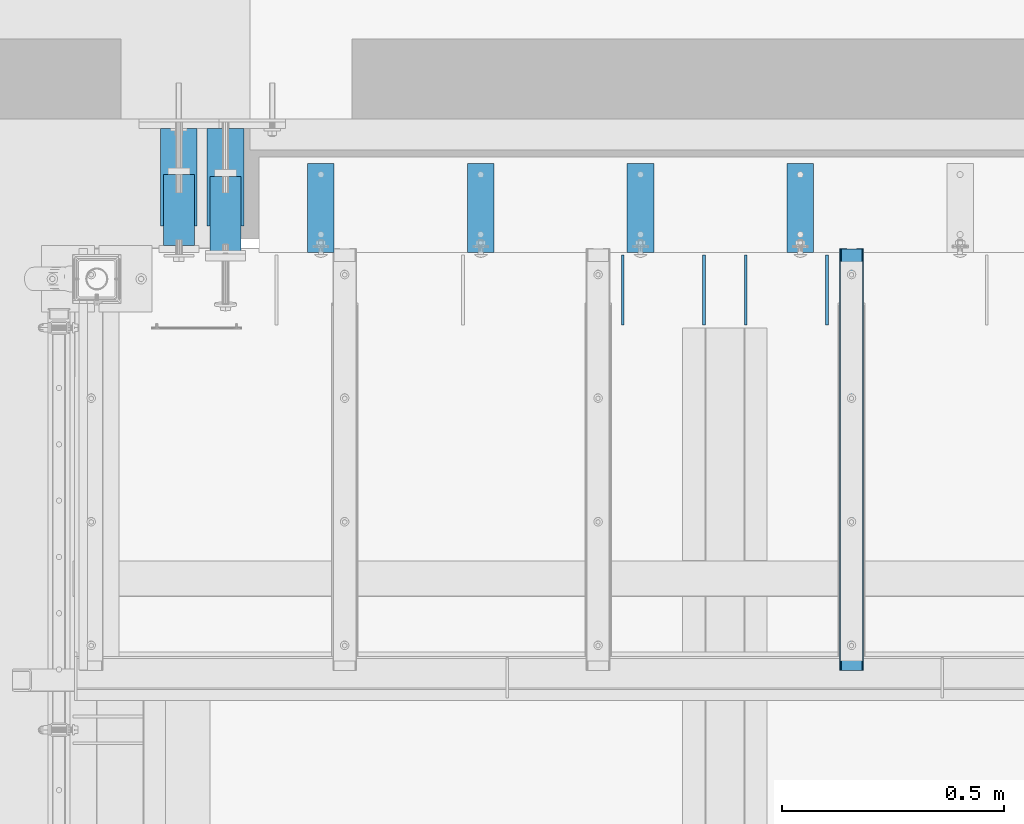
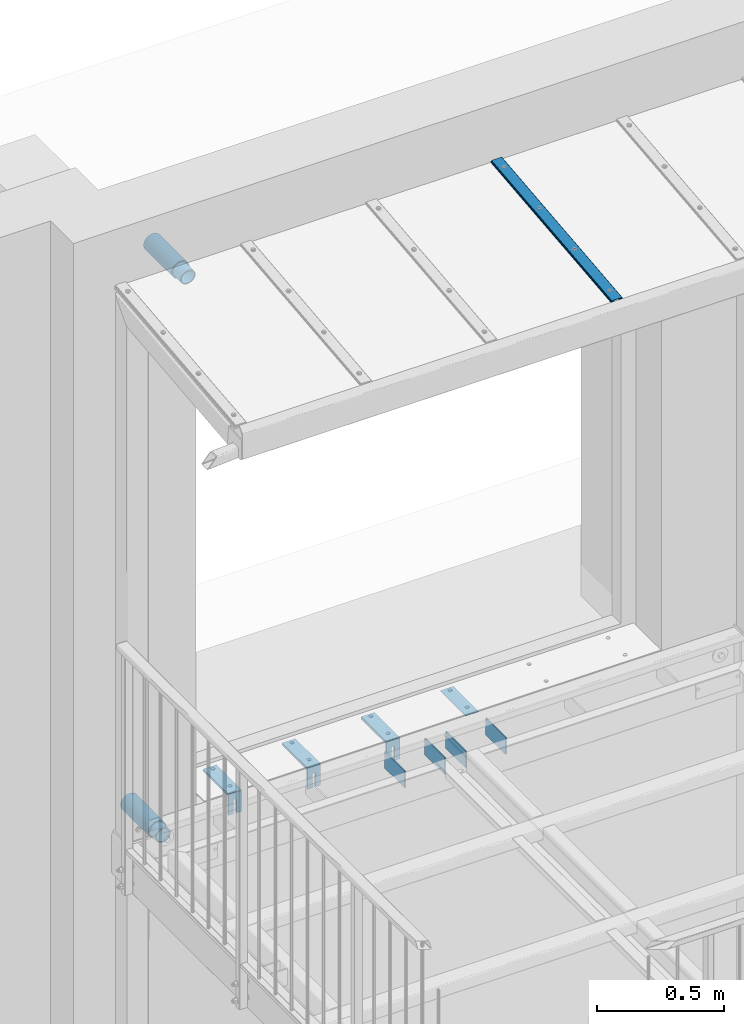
# One storey, part 19 of 116: 15 beams, 1 member, 7 openings.
"""IFC2X3 building model written with IfcOpenShell, lengths in millimetres."""

import ifcopenshell
import ifcopenshell.guid

model = None  # the IFC model being written
_history = None  # IfcOwnerHistory: only IFC2X3 demands one
_inside = {}  # id of a spatial element -> (the spatial element, [elements in it])
_under = {}  # id of a project, library or spatial element -> (it, [spatial elements below it])
_declared = {}  # id of a project -> (the project, [libraries it declares])
_typed = {}  # id of a type object -> (the type object, [elements of that type])
_made_of = {}  # id of a material, layer set ... -> (it, [elements and type objects made of it])


def new_model(schema):
    """Start an empty IFC model of exactly this schema.

    Asked for "IFC4X3", IfcOpenShell would pick the latest addendum, in which some entities
    have other attributes; the version numbers below select the first issue.
    IFC2X3 requires an IfcOwnerHistory on every rooted entity: one is made here for all.
    """
    global model, _history
    if schema == "IFC4X3":
        model = ifcopenshell.file(schema_version=(4, 3, 0, 0))
    else:
        model = ifcopenshell.file(schema=schema)
    _inside.clear()
    _under.clear()
    _declared.clear()
    _typed.clear()
    _made_of.clear()
    _history = None
    if model.schema == "IFC2X3":
        org = make("IfcOrganization", Name="unknown")
        user = make(
            "IfcPersonAndOrganization",
            ThePerson=make("IfcPerson", FamilyName="unknown"),
            TheOrganization=org,
        )
        app = make(
            "IfcApplication",
            ApplicationDeveloper=org,
            Version="unknown",
            ApplicationFullName="unknown",
            ApplicationIdentifier="unknown",
        )
        _history = make(
            "IfcOwnerHistory",
            OwningUser=user,
            OwningApplication=app,
            ChangeAction="ADDED",
            CreationDate=0,
        )
    return model


def make(cls, **values):
    """One entity of the class cls with the attributes given. An attribute that is None is left unset."""
    return model.create_entity(
        cls, **{name: value for name, value in values.items() if value is not None}
    )


def entity(cls, *values):
    """Any entity or typed value of the class cls, its attributes in the order of the schema. None: left unset."""
    e = model.create_entity(cls)
    for i, value in enumerate(values):
        if value is not None:
            e[i] = value
    return e


def rooted(cls, **values):
    """An entity with a GlobalId (a new one), such as an element, a storey or a relation."""
    return make(cls, GlobalId=ifcopenshell.guid.new(), OwnerHistory=_history, **values)


def si_unit(unit_type, name, prefix=None):
    """IfcSIUnit, for example si_unit("LENGTHUNIT", "METRE", prefix="MILLI")."""
    return make("IfcSIUnit", UnitType=unit_type, Prefix=prefix, Name=name)


def converted_unit(unit_type, name, factor, base, dimensions=None, offset=None):
    """IfcConversionBasedUnit, such as the inch: factor (a typed value) times the base unit."""
    return make(
        "IfcConversionBasedUnit"
        if offset is None
        else "IfcConversionBasedUnitWithOffset",
        ConversionOffset=offset,
        Dimensions=None
        if dimensions is None
        else entity("IfcDimensionalExponents", *dimensions),
        UnitType=unit_type,
        Name=name,
        ConversionFactor=make(
            "IfcMeasureWithUnit", ValueComponent=factor, UnitComponent=base
        ),
    )


def assignment(units):
    """IfcUnitAssignment: the units of a project."""
    return None if units is None else make("IfcUnitAssignment", Units=units)


def point(xyz):
    """IfcCartesianPoint."""
    return None if xyz is None else make("IfcCartesianPoint", Coordinates=xyz)


def direction(xyz):
    """IfcDirection."""
    return None if xyz is None else make("IfcDirection", DirectionRatios=xyz)


def frame(location, z_axis=None, x_axis=None):
    """IfcAxis2Placement3D, a coordinate frame: its origin and axes. An axis left out is left unset."""
    return make(
        "IfcAxis2Placement3D",
        Location=point(location),
        Axis=direction(z_axis),
        RefDirection=direction(x_axis),
    )


def frame_2d(location, x_axis=None):
    """IfcAxis2Placement2D, a coordinate frame in the plane: its origin and x axis."""
    return make(
        "IfcAxis2Placement2D", Location=point(location), RefDirection=direction(x_axis)
    )


def origin():
    """The frame at (0, 0, 0) with its axes left unset."""
    return frame((0.0, 0.0, 0.0))


def origin_with_axes():
    """The frame at (0, 0, 0) with the z axis (0, 0, 1) and the x axis (1, 0, 0) written out."""
    return frame((0.0, 0.0, 0.0), z_axis=(0.0, 0.0, 1.0), x_axis=(1.0, 0.0, 0.0))


def origin_2d():
    """The frame at (0, 0) in the plane with its x axis left unset."""
    return frame_2d((0.0, 0.0))


def origin_2d_with_axis():
    """The frame at (0, 0) in the plane with the x axis (1, 0) written out."""
    return frame_2d((0.0, 0.0), x_axis=(1.0, 0.0))


def place(relative_to, where):
    """IfcLocalPlacement: puts the frame where relative to a parent placement (None: the world)."""
    return make(
        "IfcLocalPlacement", PlacementRelTo=relative_to, RelativePlacement=where
    )


def context(
    kind, dimensions, precision=None, world=None, true_north=None, identifier=None
):
    """IfcGeometricRepresentationContext, for example the 3D "Model" context."""
    return make(
        "IfcGeometricRepresentationContext",
        ContextIdentifier=identifier,
        ContextType=kind,
        CoordinateSpaceDimension=dimensions,
        Precision=precision,
        WorldCoordinateSystem=world,
        TrueNorth=true_north,
    )


def project(units=None, contexts=None):
    """IfcProject with its units and contexts."""
    return rooted(
        "IfcProject",
        Name="project",
        RepresentationContexts=contexts,
        UnitsInContext=assignment(units),
    )


def spatial(cls, under=None, at=None, **own):
    """A site, building, storey or space (cls), placed at a placement, below another one or the project."""
    s = rooted(cls, ObjectPlacement=at, **own)
    if under is not None:
        _under.setdefault(under.id(), (under, []))[1].append(s)
    return s


def polyline(points):
    """IfcPolyline through the points."""
    return make("IfcPolyline", Points=[point(p) for p in points])


def circle_curve(where, radius):
    """IfcCircle in the frame where."""
    return make("IfcCircle", Position=where, Radius=radius)


def line_curve(start, along, magnitude):
    """IfcLine from a point along a vector."""
    return make(
        "IfcLine",
        Pnt=point(start),
        Dir=make("IfcVector", Orientation=direction(along), Magnitude=magnitude),
    )


def trimmed(basis, trim1, trim2, sense, master):
    """IfcTrimmedCurve: the piece of a basis curve between two trims."""
    return make(
        "IfcTrimmedCurve",
        BasisCurve=basis,
        Trim1=trim1,
        Trim2=trim2,
        SenseAgreement=sense,
        MasterRepresentation=master,
    )


def segment(curve, same_sense, transition):
    """IfcCompositeCurveSegment."""
    return make(
        "IfcCompositeCurveSegment",
        Transition=transition,
        SameSense=same_sense,
        ParentCurve=curve,
    )


def composite_curve(segments, self_intersect=None):
    """IfcCompositeCurve: segments joined end to end."""
    return make("IfcCompositeCurve", Segments=segments, SelfIntersect=self_intersect)


def profile(cls, at=None, kind="AREA", **sizes):
    """A parametric profile (cls). Its sizes go by their IFC names, for example OverallWidth=200.0."""
    return make(cls, ProfileType=kind, Position=at, **sizes)


def rectangle(**sizes):
    """IfcRectangleProfileDef."""
    return profile("IfcRectangleProfileDef", **sizes)


def circle(**sizes):
    """IfcCircleProfileDef."""
    return profile("IfcCircleProfileDef", **sizes)


def hollow_circle(**sizes):
    """IfcCircleHollowProfileDef."""
    return profile("IfcCircleHollowProfileDef", **sizes)


def outline(outer, holes=None, kind="AREA"):
    """IfcArbitraryClosedProfileDef: a profile drawn as a closed curve; with holes, ...WithVoids."""
    if holes is None:
        return make("IfcArbitraryClosedProfileDef", ProfileType=kind, OuterCurve=outer)
    return make(
        "IfcArbitraryProfileDefWithVoids",
        ProfileType=kind,
        OuterCurve=outer,
        InnerCurves=holes,
    )


def extrude(swept, where, along, depth):
    """IfcExtrudedAreaSolid: the profile swept, set in the frame where, extruded along a direction by depth."""
    return make(
        "IfcExtrudedAreaSolid",
        SweptArea=swept,
        Position=where,
        ExtrudedDirection=direction(along),
        Depth=depth,
    )


def clip(a, b, op="DIFFERENCE"):
    """IfcBooleanClippingResult: the solid a cut by the half space b."""
    return make(
        "IfcBooleanClippingResult", Operator=op, FirstOperand=a, SecondOperand=b
    )


def halfspace(plane, agree):
    """IfcHalfSpaceSolid: all space on one side of the plane z = 0 of the frame plane."""
    return make(
        "IfcHalfSpaceSolid",
        BaseSurface=make("IfcPlane", Position=plane),
        AgreementFlag=agree,
    )


def shape(context_of_items, identifier, shape_type, items):
    """IfcShapeRepresentation: the items that make up one representation, for example the "Body"."""
    return make(
        "IfcShapeRepresentation",
        ContextOfItems=context_of_items,
        RepresentationIdentifier=identifier,
        RepresentationType=shape_type,
        Items=items,
    )


def material(Name=None, Category=None):
    """IfcMaterial."""
    return make("IfcMaterial", Name=Name, Category=Category)


def made_of(thing, what):
    """Note that an element or type object is made of a material, layer set ...; save() writes the relation."""
    if what is not None:
        _made_of.setdefault(what.id(), (what, []))[1].append(thing)
    return thing


def element(
    cls,
    number,
    at=None,
    inside=None,
    cuts=None,
    type_object=None,
    material=None,
    context=None,
    identifier="Body",
    shape_type=None,
    held_by="IfcProductDefinitionShape",
    body=None,
    shapes=None,
    **own,
):
    """One element of the class cls, such as IfcWall. Its Tag is "e" and its number.

    at: its placement. inside: the storey or other place that contains it. cuts: it is an
    opening in that element (IfcRelVoidsElement). A single representation is given by context,
    identifier, shape_type and body (its items); several are given by shapes. held_by: the class
    of the entity that holds the representations. save() writes the other relations.
    """
    e = rooted(cls, Tag="e%d" % number, ObjectPlacement=at, **own)
    if body is not None:
        shapes = [shape(context, identifier, shape_type, body)]
    if shapes is not None:
        e.Representation = make(held_by, Representations=shapes)
    if inside is not None:
        _inside.setdefault(inside.id(), (inside, []))[1].append(e)
    if cuts is not None:
        rooted(
            "IfcRelVoidsElement", RelatingBuildingElement=cuts, RelatedOpeningElement=e
        )
    if type_object is not None:
        _typed.setdefault(type_object.id(), (type_object, []))[1].append(e)
    return made_of(e, material)


def aggregate(whole, parts):
    """IfcRelAggregates: a whole, such as a stair, and the parts it consists of."""
    return rooted("IfcRelAggregates", RelatingObject=whole, RelatedObjects=parts)


def save(model, path):
    """Write the relations noted so far, then the file.

    IfcRelAggregates (storeys below a building ...), IfcRelContainedInSpatialStructure (elements
    in a storey), IfcRelDefinesByType, IfcRelAssociatesMaterial and IfcRelDeclares: one each for
    every whole, place, type object, material and project.
    """
    for whole, parts in _under.values():
        aggregate(whole, parts)
    for where, things in _inside.values():
        rooted(
            "IfcRelContainedInSpatialStructure",
            RelatedElements=things,
            RelatingStructure=where,
        )
    for kind, things in _typed.values():
        rooted("IfcRelDefinesByType", RelatedObjects=things, RelatingType=kind)
    for what, things in _made_of.values():
        rooted("IfcRelAssociatesMaterial", RelatedObjects=things, RelatingMaterial=what)
    for by, libraries in _declared.values():
        rooted("IfcRelDeclares", RelatingContext=by, RelatedDefinitions=libraries)
    model.write(path)


model = new_model("IFC2X3")

# Units and contexts
model_context = context("Model", 3, precision=1e-09, world=origin_with_axes())
ifc_project = project(units=[si_unit("LENGTHUNIT", "METRE", prefix="MILLI"), si_unit("AREAUNIT", "SQUARE_METRE"), si_unit("VOLUMEUNIT", "CUBIC_METRE"), converted_unit("PLANEANGLEUNIT", "DEGREE", entity("IfcPlaneAngleMeasure", 0.01745329), si_unit("PLANEANGLEUNIT", "RADIAN"), dimensions=[0, 0, 0, 0, 0, 0, 0])], contexts=[model_context])

# Site, building, storey
site_placement = place(None, origin_with_axes())
site = spatial("IfcSite", under=ifc_project, at=site_placement, Name="Site", CompositionType="ELEMENT")
building_placement = place(site_placement, origin_with_axes())
building = spatial("IfcBuilding", under=site, at=building_placement, Name="Struktur 1", CompositionType="ELEMENT")
storey_placement = place(building_placement, origin_with_axes())
storey = spatial("IfcBuildingStorey", under=building, at=storey_placement, Name="Default Storey", CompositionType="ELEMENT", Elevation=0.0)

# Member, openings
ifc_material_1 = material(Name="S235JR")
member_placement = place(None, frame((57037.549134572, 11080.325462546, 2512.640850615), z_axis=(0.0, -0.994521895, -0.104528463), x_axis=(1.0, 0.0, 0.0)))
member = element("IfcMember", 1, at=member_placement, inside=storey, material=ifc_material_1, Name="-", ObjectType="-", context=model_context, shape_type="SweptSolid", body=[
    extrude(outline(composite_curve([segment(trimmed(line_curve((10.75, -4.5), (1.0, 0.0), 0.5), [point((10.75, -4.5))], [point((11.25, -4.5))], True, "CARTESIAN"), True, "CONTINUOUS"), segment(trimmed(line_curve((11.25, -4.5), (0.0, 1.0), 1.0), [point((11.25, -4.5))], [point((11.25, -3.5))], True, "CARTESIAN"), True, "CONTINUOUS"), segment(trimmed(line_curve((11.25, -3.5), (1.0, 0.0), 1.0), [point((11.25, -3.5))], [point((12.25, -3.5))], True, "CARTESIAN"), True, "CONTINUOUS"), segment(trimmed(line_curve((12.25, -3.5), (0.0, -1.0), 1.0), [point((12.25, -3.5))], [point((12.25, -4.5))], True, "CARTESIAN"), True, "CONTINUOUS"), segment(trimmed(line_curve((12.25, -4.5), (1.0, 0.0), 1.0), [point((12.25, -4.5))], [point((13.25, -4.5))], True, "CARTESIAN"), True, "CONTINUOUS"), segment(trimmed(line_curve((13.25, -4.5), (0.0, 1.0), 1.0), [point((13.25, -4.5))], [point((13.25, -3.5))], True, "CARTESIAN"), True, "CONTINUOUS"), segment(trimmed(line_curve((13.25, -3.5), (1.0, 0.0), 1.0), [point((13.25, -3.5))], [point((14.25, -3.5))], True, "CARTESIAN"), True, "CONTINUOUS"), segment(trimmed(line_curve((14.25, -3.5), (0.0, -1.0), 1.0), [point((14.25, -3.5))], [point((14.25, -4.5))], True, "CARTESIAN"), True, "CONTINUOUS"), segment(trimmed(line_curve((14.25, -4.5), (1.0, 0.0), 1.0), [point((14.25, -4.5))], [point((15.25, -4.5))], True, "CARTESIAN"), True, "CONTINUOUS"), segment(trimmed(line_curve((15.25, -4.5), (0.0, 1.0), 1.0), [point((15.25, -4.5))], [point((15.25, -3.5))], True, "CARTESIAN"), True, "CONTINUOUS"), segment(trimmed(line_curve((15.25, -3.5), (1.0, 0.0), 1.0), [point((15.25, -3.5))], [point((16.25, -3.5))], True, "CARTESIAN"), True, "CONTINUOUS"), segment(trimmed(line_curve((16.25, -3.5), (0.0, -1.0), 1.0), [point((16.25, -3.5))], [point((16.25, -4.5))], True, "CARTESIAN"), True, "CONTINUOUS"), segment(trimmed(line_curve((16.25, -4.5), (1.0, 0.0), 1.0), [point((16.25, -4.5))], [point((17.25, -4.5))], True, "CARTESIAN"), True, "CONTINUOUS"), segment(trimmed(line_curve((17.25, -4.5), (0.0, 1.0), 1.0), [point((17.25, -4.5))], [point((17.25, -3.5))], True, "CARTESIAN"), True, "CONTINUOUS"), segment(trimmed(line_curve((17.25, -3.5), (1.0, 0.0), 1.0), [point((17.25, -3.5))], [point((18.25, -3.5))], True, "CARTESIAN"), True, "CONTINUOUS"), segment(trimmed(line_curve((18.25, -3.5), (0.0, -1.0), 1.0), [point((18.25, -3.5))], [point((18.25, -4.5))], True, "CARTESIAN"), True, "CONTINUOUS"), segment(trimmed(line_curve((18.25, -4.5), (1.0, 0.0), 1.0), [point((18.25, -4.5))], [point((19.25, -4.5))], True, "CARTESIAN"), True, "CONTINUOUS"), segment(trimmed(line_curve((19.25, -4.5), (0.0, 1.0), 1.0), [point((19.25, -4.5))], [point((19.25, -3.5))], True, "CARTESIAN"), True, "CONTINUOUS"), segment(trimmed(line_curve((19.25, -3.5), (1.0, 0.0), 1.0), [point((19.25, -3.5))], [point((20.25, -3.5))], True, "CARTESIAN"), True, "CONTINUOUS"), segment(trimmed(line_curve((20.25, -3.5), (0.0, -1.0), 1.0), [point((20.25, -3.5))], [point((20.25, -4.5))], True, "CARTESIAN"), True, "CONTINUOUS"), segment(trimmed(line_curve((20.25, -4.5), (1.0, 0.0), 1.0), [point((20.25, -4.5))], [point((21.25, -4.5))], True, "CARTESIAN"), True, "CONTINUOUS"), segment(trimmed(line_curve((21.25, -4.5), (0.0, 1.0), 1.0), [point((21.25, -4.5))], [point((21.25, -3.5))], True, "CARTESIAN"), True, "CONTINUOUS"), segment(trimmed(line_curve((21.25, -3.5), (1.0, 0.0), 1.0), [point((21.25, -3.5))], [point((22.25, -3.5))], True, "CARTESIAN"), True, "CONTINUOUS"), segment(trimmed(line_curve((22.25, -3.5), (0.0, -1.0), 1.0), [point((22.25, -3.5))], [point((22.25, -4.5))], True, "CARTESIAN"), True, "CONTINUOUS"), segment(trimmed(line_curve((22.25, -4.5), (1.0, 0.0), 1.0), [point((22.25, -4.5))], [point((23.25, -4.5))], True, "CARTESIAN"), True, "CONTINUOUS"), segment(trimmed(line_curve((23.25, -4.5), (0.0, 1.0), 1.0), [point((23.25, -4.5))], [point((23.25, -3.5))], True, "CARTESIAN"), True, "CONTINUOUS"), segment(trimmed(line_curve((23.25, -3.5), (1.0, 0.0), 1.0), [point((23.25, -3.5))], [point((24.25, -3.5))], True, "CARTESIAN"), True, "CONTINUOUS"), segment(trimmed(line_curve((24.25, -3.5), (0.0, -1.0), 1.0), [point((24.25, -3.5))], [point((24.25, -4.5))], True, "CARTESIAN"), True, "CONTINUOUS"), segment(trimmed(line_curve((24.25, -4.5), (1.0, 0.0), 1.0), [point((24.25, -4.5))], [point((25.25, -4.5))], True, "CARTESIAN"), True, "CONTINUOUS"), segment(trimmed(line_curve((25.25, -4.5), (0.0, 1.0), 1.0), [point((25.25, -4.5))], [point((25.25, -3.5))], True, "CARTESIAN"), True, "CONTINUOUS"), segment(trimmed(line_curve((25.25, -3.5), (1.0, 0.0), 1.0), [point((25.25, -3.5))], [point((26.25, -3.5))], True, "CARTESIAN"), True, "CONTINUOUS"), segment(trimmed(line_curve((26.25, -3.5), (0.0, -1.0), 1.0), [point((26.25, -3.5))], [point((26.25, -4.5))], True, "CARTESIAN"), True, "CONTINUOUS"), segment(trimmed(line_curve((26.25, -4.5), (1.0, 0.0), 0.5), [point((26.25, -4.5))], [point((26.75, -4.5))], True, "CARTESIAN"), True, "CONTINUOUS"), segment(trimmed(line_curve((26.75, -4.5), (0.0, 1.0), 4.0), [point((26.75, -4.5))], [point((26.75, -0.5))], True, "CARTESIAN"), True, "CONTINUOUS"), segment(trimmed(line_curve((26.75, -0.5), (-1.0, 0.0), 1.75), [point((26.75, -0.5))], [point((25.0, -0.5))], True, "CARTESIAN"), True, "CONTINUOUS"), segment(trimmed(line_curve((25.0, -0.5), (0.0, 1.0), 1.5), [point((25.0, -0.5))], [point((25.0, 1.0))], True, "CARTESIAN"), True, "CONTINUOUS"), segment(trimmed(circle_curve(frame_2d((21.499999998, 0.999999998), x_axis=(1.0, 0.0)), 3.500000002), [point((25.0, 1.0))], [point((21.5, 4.5))], True, "CARTESIAN"), True, "CONTINUOUS"), segment(trimmed(line_curve((21.5, 4.5), (-1.0, 0.0), 43.0), [point((21.5, 4.5))], [point((-21.5, 4.5))], True, "CARTESIAN"), True, "CONTINUOUS"), segment(trimmed(circle_curve(frame_2d((-21.499999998, 0.999999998), x_axis=(1.0, 0.0)), 3.500000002), [point((-21.5, 4.5))], [point((-25.0, 1.0))], True, "CARTESIAN"), True, "CONTINUOUS"), segment(trimmed(line_curve((-25.0, 1.0), (0.0, -1.0), 1.5), [point((-25.0, 1.0))], [point((-25.0, -0.5))], True, "CARTESIAN"), True, "CONTINUOUS"), segment(trimmed(line_curve((-25.0, -0.5), (-1.0, 0.0), 1.75), [point((-25.0, -0.5))], [point((-26.75, -0.5))], True, "CARTESIAN"), True, "CONTINUOUS"), segment(trimmed(line_curve((-26.75, -0.5), (0.0, -1.0), 4.0), [point((-26.75, -0.5))], [point((-26.75, -4.5))], True, "CARTESIAN"), True, "CONTINUOUS"), segment(trimmed(line_curve((-26.75, -4.5), (1.0, 0.0), 0.5), [point((-26.75, -4.5))], [point((-26.25, -4.5))], True, "CARTESIAN"), True, "CONTINUOUS"), segment(trimmed(line_curve((-26.25, -4.5), (0.0, 1.0), 1.0), [point((-26.25, -4.5))], [point((-26.25, -3.5))], True, "CARTESIAN"), True, "CONTINUOUS"), segment(trimmed(line_curve((-26.25, -3.5), (1.0, 0.0), 1.0), [point((-26.25, -3.5))], [point((-25.25, -3.5))], True, "CARTESIAN"), True, "CONTINUOUS"), segment(trimmed(line_curve((-25.25, -3.5), (0.0, -1.0), 1.0), [point((-25.25, -3.5))], [point((-25.25, -4.5))], True, "CARTESIAN"), True, "CONTINUOUS"), segment(trimmed(line_curve((-25.25, -4.5), (1.0, 0.0), 1.0), [point((-25.25, -4.5))], [point((-24.25, -4.5))], True, "CARTESIAN"), True, "CONTINUOUS"), segment(trimmed(line_curve((-24.25, -4.5), (0.0, 1.0), 1.0), [point((-24.25, -4.5))], [point((-24.25, -3.5))], True, "CARTESIAN"), True, "CONTINUOUS"), segment(trimmed(line_curve((-24.25, -3.5), (1.0, 0.0), 1.0), [point((-24.25, -3.5))], [point((-23.25, -3.5))], True, "CARTESIAN"), True, "CONTINUOUS"), segment(trimmed(line_curve((-23.25, -3.5), (0.0, -1.0), 1.0), [point((-23.25, -3.5))], [point((-23.25, -4.5))], True, "CARTESIAN"), True, "CONTINUOUS"), segment(trimmed(line_curve((-23.25, -4.5), (1.0, 0.0), 1.0), [point((-23.25, -4.5))], [point((-22.25, -4.5))], True, "CARTESIAN"), True, "CONTINUOUS"), segment(trimmed(line_curve((-22.25, -4.5), (0.0, 1.0), 1.0), [point((-22.25, -4.5))], [point((-22.25, -3.5))], True, "CARTESIAN"), True, "CONTINUOUS"), segment(trimmed(line_curve((-22.25, -3.5), (1.0, 0.0), 1.0), [point((-22.25, -3.5))], [point((-21.25, -3.5))], True, "CARTESIAN"), True, "CONTINUOUS"), segment(trimmed(line_curve((-21.25, -3.5), (0.0, -1.0), 1.0), [point((-21.25, -3.5))], [point((-21.25, -4.5))], True, "CARTESIAN"), True, "CONTINUOUS"), segment(trimmed(line_curve((-21.25, -4.5), (1.0, 0.0), 1.0), [point((-21.25, -4.5))], [point((-20.25, -4.5))], True, "CARTESIAN"), True, "CONTINUOUS"), segment(trimmed(line_curve((-20.25, -4.5), (0.0, 1.0), 1.0), [point((-20.25, -4.5))], [point((-20.25, -3.5))], True, "CARTESIAN"), True, "CONTINUOUS"), segment(trimmed(line_curve((-20.25, -3.5), (1.0, 0.0), 1.0), [point((-20.25, -3.5))], [point((-19.25, -3.5))], True, "CARTESIAN"), True, "CONTINUOUS"), segment(trimmed(line_curve((-19.25, -3.5), (0.0, -1.0), 1.0), [point((-19.25, -3.5))], [point((-19.25, -4.5))], True, "CARTESIAN"), True, "CONTINUOUS"), segment(trimmed(line_curve((-19.25, -4.5), (1.0, 0.0), 1.0), [point((-19.25, -4.5))], [point((-18.25, -4.5))], True, "CARTESIAN"), True, "CONTINUOUS"), segment(trimmed(line_curve((-18.25, -4.5), (0.0, 1.0), 1.0), [point((-18.25, -4.5))], [point((-18.25, -3.5))], True, "CARTESIAN"), True, "CONTINUOUS"), segment(trimmed(line_curve((-18.25, -3.5), (1.0, 0.0), 1.0), [point((-18.25, -3.5))], [point((-17.25, -3.5))], True, "CARTESIAN"), True, "CONTINUOUS"), segment(trimmed(line_curve((-17.25, -3.5), (0.0, -1.0), 1.0), [point((-17.25, -3.5))], [point((-17.25, -4.5))], True, "CARTESIAN"), True, "CONTINUOUS"), segment(trimmed(line_curve((-17.25, -4.5), (1.0, 0.0), 1.0), [point((-17.25, -4.5))], [point((-16.25, -4.5))], True, "CARTESIAN"), True, "CONTINUOUS"), segment(trimmed(line_curve((-16.25, -4.5), (0.0, 1.0), 1.0), [point((-16.25, -4.5))], [point((-16.25, -3.5))], True, "CARTESIAN"), True, "CONTINUOUS"), segment(trimmed(line_curve((-16.25, -3.5), (1.0, 0.0), 1.0), [point((-16.25, -3.5))], [point((-15.25, -3.5))], True, "CARTESIAN"), True, "CONTINUOUS"), segment(trimmed(line_curve((-15.25, -3.5), (0.0, -1.0), 1.0), [point((-15.25, -3.5))], [point((-15.25, -4.5))], True, "CARTESIAN"), True, "CONTINUOUS"), segment(trimmed(line_curve((-15.25, -4.5), (1.0, 0.0), 1.0), [point((-15.25, -4.5))], [point((-14.25, -4.5))], True, "CARTESIAN"), True, "CONTINUOUS"), segment(trimmed(line_curve((-14.25, -4.5), (0.0, 1.0), 1.0), [point((-14.25, -4.5))], [point((-14.25, -3.5))], True, "CARTESIAN"), True, "CONTINUOUS"), segment(trimmed(line_curve((-14.25, -3.5), (1.0, 0.0), 1.0), [point((-14.25, -3.5))], [point((-13.25, -3.5))], True, "CARTESIAN"), True, "CONTINUOUS"), segment(trimmed(line_curve((-13.25, -3.5), (0.0, -1.0), 1.0), [point((-13.25, -3.5))], [point((-13.25, -4.5))], True, "CARTESIAN"), True, "CONTINUOUS"), segment(trimmed(line_curve((-13.25, -4.5), (1.0, 0.0), 1.0), [point((-13.25, -4.5))], [point((-12.25, -4.5))], True, "CARTESIAN"), True, "CONTINUOUS"), segment(trimmed(line_curve((-12.25, -4.5), (0.0, 1.0), 1.0), [point((-12.25, -4.5))], [point((-12.25, -3.5))], True, "CARTESIAN"), True, "CONTINUOUS"), segment(trimmed(line_curve((-12.25, -3.5), (1.0, 0.0), 1.0), [point((-12.25, -3.5))], [point((-11.25, -3.5))], True, "CARTESIAN"), True, "CONTINUOUS"), segment(trimmed(line_curve((-11.25, -3.5), (0.0, -1.0), 1.0), [point((-11.25, -3.5))], [point((-11.25, -4.5))], True, "CARTESIAN"), True, "CONTINUOUS"), segment(trimmed(line_curve((-11.25, -4.5), (1.0, 0.0), 0.5), [point((-11.25, -4.5))], [point((-10.75, -4.5))], True, "CARTESIAN"), True, "CONTINUOUS"), segment(trimmed(line_curve((-10.75, -4.5), (0.0, 1.0), 4.0), [point((-10.75, -4.5))], [point((-10.75, -0.5))], True, "CARTESIAN"), True, "CONTINUOUS"), segment(trimmed(line_curve((-10.75, -0.5), (-1.0, 0.0), 1.75), [point((-10.75, -0.5))], [point((-12.5, -0.5))], True, "CARTESIAN"), True, "CONTINUOUS"), segment(trimmed(line_curve((-12.5, -0.5), (0.0, 1.0), 3.0), [point((-12.5, -0.5))], [point((-12.5, 2.5))], True, "CARTESIAN"), True, "CONTINUOUS"), segment(trimmed(line_curve((-12.5, 2.5), (1.0, 0.0), 25.0), [point((-12.5, 2.5))], [point((12.5, 2.5))], True, "CARTESIAN"), True, "CONTINUOUS"), segment(trimmed(line_curve((12.5, 2.5), (0.0, -1.0), 3.0), [point((12.5, 2.5))], [point((12.5, -0.5))], True, "CARTESIAN"), True, "CONTINUOUS"), segment(trimmed(line_curve((12.5, -0.5), (-1.0, 0.0), 1.75), [point((12.5, -0.5))], [point((10.75, -0.5))], True, "CARTESIAN"), True, "CONTINUOUS"), segment(trimmed(line_curve((10.75, -0.5), (0.0, -1.0), 4.0), [point((10.75, -0.5))], [point((10.75, -4.5))], True, "CARTESIAN"), True, "CONTINUOUS")], self_intersect=False), holes=[composite_curve([segment(trimmed(line_curve((16.25, -0.5), (1.0, 0.0), 5.0), [point((16.25, -0.5))], [point((21.25, -0.5))], True, "CARTESIAN"), True, "CONTINUOUS"), segment(trimmed(line_curve((21.25, -0.5), (0.0, 1.0), 1.5), [point((21.25, -0.5))], [point((21.25, 1.0))], True, "CARTESIAN"), True, "CONTINUOUS"), segment(trimmed(line_curve((21.25, 1.0), (1.0, 0.0), 2.25), [point((21.25, 1.0))], [point((23.5, 1.0))], True, "CARTESIAN"), True, "CONTINUOUS"), segment(trimmed(circle_curve(frame_2d((21.499999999, 0.999999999), x_axis=(1.0, 0.0)), 2.000000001), [point((23.5, 1.0))], [point((21.5, 3.0))], True, "CARTESIAN"), True, "CONTINUOUS"), segment(trimmed(line_curve((21.5, 3.0), (-1.0, 0.0), 7.5), [point((21.5, 3.0))], [point((14.0, 3.0))], True, "CARTESIAN"), True, "CONTINUOUS"), segment(trimmed(line_curve((14.0, 3.0), (0.0, -1.0), 2.0), [point((14.0, 3.0))], [point((14.0, 1.0))], True, "CARTESIAN"), True, "CONTINUOUS"), segment(trimmed(line_curve((14.0, 1.0), (1.0, 0.0), 2.25), [point((14.0, 1.0))], [point((16.25, 1.0))], True, "CARTESIAN"), True, "CONTINUOUS"), segment(trimmed(line_curve((16.25, 1.0), (0.0, -1.0), 1.5), [point((16.25, 1.0))], [point((16.25, -0.5))], True, "CARTESIAN"), True, "CONTINUOUS")], self_intersect=False), composite_curve([segment(trimmed(line_curve((-16.25, -0.5), (0.0, 1.0), 1.5), [point((-16.25, -0.5))], [point((-16.25, 1.0))], True, "CARTESIAN"), True, "CONTINUOUS"), segment(trimmed(line_curve((-16.25, 1.0), (1.0, 0.0), 2.25), [point((-16.25, 1.0))], [point((-14.0, 1.0))], True, "CARTESIAN"), True, "CONTINUOUS"), segment(trimmed(line_curve((-14.0, 1.0), (0.0, 1.0), 2.0), [point((-14.0, 1.0))], [point((-14.0, 3.0))], True, "CARTESIAN"), True, "CONTINUOUS"), segment(trimmed(line_curve((-14.0, 3.0), (-1.0, 0.0), 7.5), [point((-14.0, 3.0))], [point((-21.5, 3.0))], True, "CARTESIAN"), True, "CONTINUOUS"), segment(trimmed(circle_curve(frame_2d((-21.499999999, 0.999999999), x_axis=(1.0, 0.0)), 2.000000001), [point((-21.5, 3.0))], [point((-23.5, 1.0))], True, "CARTESIAN"), True, "CONTINUOUS"), segment(trimmed(line_curve((-23.5, 1.0), (1.0, 0.0), 2.25), [point((-23.5, 1.0))], [point((-21.25, 1.0))], True, "CARTESIAN"), True, "CONTINUOUS"), segment(trimmed(line_curve((-21.25, 1.0), (0.0, -1.0), 1.5), [point((-21.25, 1.0))], [point((-21.25, -0.5))], True, "CARTESIAN"), True, "CONTINUOUS"), segment(trimmed(line_curve((-21.25, -0.5), (1.0, 0.0), 5.0), [point((-21.25, -0.5))], [point((-16.25, -0.5))], True, "CARTESIAN"), True, "CONTINUOUS")], self_intersect=False)]), origin(), (0.0, 0.0, -1.0), 954.995580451),
])
opening_1_placement = place(member_placement, frame((2e-09, 2.0, -57.497790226), z_axis=(0.0, 1.0, 0.0), x_axis=(1.0, 0.0, 0.0)))
element("IfcOpeningElement", 2, at=opening_1_placement, cuts=member, ObjectType="Opening", context=model_context, shape_type="SweptSolid", body=[
    extrude(circle(Radius=6.001, at=origin_2d_with_axis()), origin(), (0.0, 0.0, 1.0), 3.0),
])
opening_2_placement = place(member_placement, frame((2e-09, 2.0, -337.497790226), z_axis=(0.0, 1.0, 0.0), x_axis=(1.0, 0.0, 0.0)))
element("IfcOpeningElement", 3, at=opening_2_placement, cuts=member, ObjectType="Opening", context=model_context, shape_type="SweptSolid", body=[
    extrude(circle(Radius=6.001, at=origin_2d_with_axis()), origin(), (0.0, 0.0, 1.0), 3.0),
])
opening_3_placement = place(member_placement, frame((2e-09, 2.0, -897.497790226), z_axis=(0.0, 1.0, 0.0), x_axis=(1.0, 0.0, 0.0)))
element("IfcOpeningElement", 4, at=opening_3_placement, cuts=member, ObjectType="Opening", context=model_context, shape_type="SweptSolid", body=[
    extrude(circle(Radius=6.001, at=origin_2d_with_axis()), origin(), (0.0, 0.0, 1.0), 3.0),
])
opening_4_placement = place(member_placement, frame((2e-09, 2.0, -617.497790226), z_axis=(0.0, 1.0, 0.0), x_axis=(1.0, 0.0, 0.0)))
element("IfcOpeningElement", 5, at=opening_4_placement, cuts=member, ObjectType="Opening", context=model_context, shape_type="SweptSolid", body=[
    extrude(circle(Radius=6.001, at=origin_2d_with_axis()), origin(), (0.0, 0.0, 1.0), 3.0),
])

# Beams
ifc_material_2 = material(Name="Gummi")
for number, where, z_axis, x_axis in (
    (6, (56922.050634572, 12222.358883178, -11.5), (0.0, -1.0, 0.0), (1.0, 0.0, 0.0)),
    (7, (56562.050634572, 12222.358883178, -11.5), (0.0, -1.0, 0.0), (1.0, 0.0, 0.0)),
    (8, (56202.050634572, 12222.358883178, -11.5), (0.0, -1.0, 0.0), (1.0, 0.0, 0.0)),
    (9, (55842.050634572, 12222.358883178, -11.5), (0.0, -1.0, 0.0), (1.0, 0.0, 0.0)),
):
    element("IfcBeam", number, at=place(None, frame(where, z_axis=z_axis, x_axis=x_axis)), inside=storey, material=ifc_material_2, Name="-", ObjectType="-", context=model_context, shape_type="SweptSolid", body=[
        extrude(outline(polyline([(-30.0, 1.5), (-30.0, -1.5), (30.0, -1.5), (30.0, 1.5), (-30.0, 1.5)])), origin(), (0.0, 0.0, 1.0), 200.0),
    ])
beam_1_placement = place(None, frame((55522.049134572, 12037.357883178, -115.0), z_axis=(0.0, -1.0, 0.0), x_axis=(1.0, 0.0, 0.0)))
element("IfcBeam", 10, at=beam_1_placement, inside=storey, material=ifc_material_1, Name="Girder", ObjectType="Girder", context=model_context, shape_type="SweptSolid", body=[
    extrude(hollow_circle(Radius=35.0, WallThickness=5.0, at=origin_2d()), origin(), (0.0, 0.0, -1.0), 160.0),
])
beam_2_placement = place(None, frame((55522.049134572, 12301.357883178, -115.0), z_axis=(0.0, -1.0, 0.0), x_axis=(1.0, 0.0, 0.0)))
element("IfcBeam", 11, at=beam_2_placement, inside=storey, material=ifc_material_1, Name="Girder", ObjectType="Girder", context=model_context, shape_type="SweptSolid", body=[
    extrude(hollow_circle(Radius=41.25, WallThickness=5.0, at=origin_2d()), origin(), (0.0, 0.0, 1.0), 220.0),
])
beam_3_placement = place(None, frame((55627.049134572, 11968.647762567, 2545.0), z_axis=(0.0, -1.0, 0.0), x_axis=(1.0, 0.0, 0.0)))
element("IfcBeam", 12, at=beam_3_placement, inside=storey, material=ifc_material_1, Name="Girder", ObjectType="Girder", context=model_context, shape_type="Clipping", body=[
    clip(extrude(hollow_circle(Radius=35.0, WallThickness=5.0, at=origin_2d()), origin(), (0.0, 0.0, -1.0), 224.770120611), halfspace(frame((-55627.049134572, -1267.425508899, -186.661563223), z_axis=(0.0, 0.104528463, -0.994521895), x_axis=(-1.0, 0.0, 0.0)), True)),
])
beam_4_placement = place(None, frame((55627.049134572, 12301.357883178, 2545.0), z_axis=(0.0, -1.0, 0.0), x_axis=(1.0, 0.0, 0.0)))
element("IfcBeam", 13, at=beam_4_placement, inside=storey, material=ifc_material_1, Name="Girder", ObjectType="Girder", context=model_context, shape_type="SweptSolid", body=[
    extrude(hollow_circle(Radius=41.25, WallThickness=5.0, at=origin_2d()), origin(), (0.0, 0.0, 1.0), 220.0),
])

# Beam, opening
ifc_material_3 = material(Name="Alu")
beam_5_placement = place(None, frame((55812.050634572, 12122.358883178, -63.0), z_axis=(1.0, 0.0, 0.0), x_axis=(0.0, 1.0, 0.0)))
beam_5 = element("IfcBeam", 14, at=beam_5_placement, inside=storey, material=ifc_material_3, Name="-", ObjectType="-", context=model_context, shape_type="SweptSolid", body=[
    extrude(outline(polyline([(-100.0, -50.0), (-90.0, -50.0), (-90.0, 40.0), (100.0, 40.0), (100.0, 50.0), (-100.0, 50.0), (-100.0, -50.0)])), origin(), (0.0, 0.0, 1.0), 60.0),
])
opening_5_placement = place(beam_5_placement, frame((-200.1, -53.501, 23.499), z_axis=(-1.0, 0.0, 0.0), x_axis=(0.0, -0.707106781, 0.707106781)))
element("IfcOpeningElement", 15, at=opening_5_placement, cuts=beam_5, ObjectType="Opening", context=model_context, shape_type="SweptSolid", body=[
    extrude(outline(composite_curve([segment(trimmed(circle_curve(frame_2d((4.596194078, 4.596194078), x_axis=(1.0, 0.0)), 6.5), [point((0.0, 0.0))], [point((9.192388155, 0.0))], True, "CARTESIAN"), True, "CONTINUOUS"), segment(trimmed(line_curve((9.192388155, 0.0), (0.707106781, 0.707106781), 0.002), [point((9.192388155, 0.0))], [point((9.193802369, 0.001414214))], True, "CARTESIAN"), True, "CONTINUOUS"), segment(trimmed(circle_curve(frame_2d((4.597608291, 4.597608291), x_axis=(1.0, 0.0)), 6.5), [point((9.193802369, 0.001414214))], [point((9.193802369, 9.193802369))], True, "CARTESIAN"), True, "CONTINUOUS"), segment(trimmed(line_curve((9.193802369, 9.193802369), (-0.707106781, 0.707106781), 67.002), [point((9.193802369, 9.193802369))], [point((-38.183766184, 56.571370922))], True, "CARTESIAN"), True, "CONTINUOUS"), segment(trimmed(circle_curve(frame_2d((-42.779960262, 51.975176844), x_axis=(1.0, 0.0)), 6.5), [point((-38.183766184, 56.571370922))], [point((-47.376154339, 56.571370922))], True, "CARTESIAN"), True, "CONTINUOUS"), segment(trimmed(line_curve((-47.376154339, 56.571370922), (-0.707106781, -0.707106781), 0.002), [point((-47.376154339, 56.571370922))], [point((-47.377568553, 56.569956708))], True, "CARTESIAN"), True, "CONTINUOUS"), segment(trimmed(circle_curve(frame_2d((-42.781374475, 51.973762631), x_axis=(1.0, 0.0)), 6.5), [point((-47.377568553, 56.569956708))], [point((-47.377568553, 47.377568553))], True, "CARTESIAN"), True, "CONTINUOUS"), segment(trimmed(line_curve((-47.377568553, 47.377568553), (0.707106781, -0.707106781), 67.002), [point((-47.377568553, 47.377568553))], [point((0.0, 0.0))], True, "CARTESIAN"), True, "CONTINUOUS")], self_intersect=False)), origin(), (0.0, 0.0, -1.0), 400.2),
])

beam_6_placement = place(None, frame((56172.050634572, 12122.358883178, -63.0), z_axis=(1.0, 0.0, 0.0), x_axis=(0.0, 1.0, 0.0)))
beam_6 = element("IfcBeam", 16, at=beam_6_placement, inside=storey, material=ifc_material_3, Name="-", ObjectType="-", context=model_context, shape_type="SweptSolid", body=[
    extrude(outline(polyline([(-100.0, -50.0), (-90.0, -50.0), (-90.0, 40.0), (100.0, 40.0), (100.0, 50.0), (-100.0, 50.0), (-100.0, -50.0)])), origin(), (0.0, 0.0, 1.0), 60.0),
])
opening_6_placement = place(beam_6_placement, frame((-200.1, -53.501, 23.499), z_axis=(-1.0, 0.0, 0.0), x_axis=(0.0, -0.707106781, 0.707106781)))
element("IfcOpeningElement", 17, at=opening_6_placement, cuts=beam_6, ObjectType="Opening", context=model_context, shape_type="SweptSolid", body=[
    extrude(outline(composite_curve([segment(trimmed(circle_curve(frame_2d((4.596194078, 4.596194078), x_axis=(1.0, 0.0)), 6.5), [point((0.0, 0.0))], [point((9.192388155, 0.0))], True, "CARTESIAN"), True, "CONTINUOUS"), segment(trimmed(line_curve((9.192388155, 0.0), (0.707106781, 0.707106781), 0.002), [point((9.192388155, 0.0))], [point((9.193802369, 0.001414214))], True, "CARTESIAN"), True, "CONTINUOUS"), segment(trimmed(circle_curve(frame_2d((4.597608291, 4.597608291), x_axis=(1.0, 0.0)), 6.5), [point((9.193802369, 0.001414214))], [point((9.193802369, 9.193802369))], True, "CARTESIAN"), True, "CONTINUOUS"), segment(trimmed(line_curve((9.193802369, 9.193802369), (-0.707106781, 0.707106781), 67.002), [point((9.193802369, 9.193802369))], [point((-38.183766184, 56.571370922))], True, "CARTESIAN"), True, "CONTINUOUS"), segment(trimmed(circle_curve(frame_2d((-42.779960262, 51.975176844), x_axis=(1.0, 0.0)), 6.5), [point((-38.183766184, 56.571370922))], [point((-47.376154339, 56.571370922))], True, "CARTESIAN"), True, "CONTINUOUS"), segment(trimmed(line_curve((-47.376154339, 56.571370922), (-0.707106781, -0.707106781), 0.002), [point((-47.376154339, 56.571370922))], [point((-47.377568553, 56.569956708))], True, "CARTESIAN"), True, "CONTINUOUS"), segment(trimmed(circle_curve(frame_2d((-42.781374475, 51.973762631), x_axis=(1.0, 0.0)), 6.5), [point((-47.377568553, 56.569956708))], [point((-47.377568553, 47.377568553))], True, "CARTESIAN"), True, "CONTINUOUS"), segment(trimmed(line_curve((-47.377568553, 47.377568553), (0.707106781, -0.707106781), 67.002), [point((-47.377568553, 47.377568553))], [point((0.0, 0.0))], True, "CARTESIAN"), True, "CONTINUOUS")], self_intersect=False)), origin(), (0.0, 0.0, -1.0), 400.2),
])

beam_7_placement = place(None, frame((56532.050634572, 12122.358883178, -63.0), z_axis=(1.0, 0.0, 0.0), x_axis=(0.0, 1.0, 0.0)))
beam_7 = element("IfcBeam", 18, at=beam_7_placement, inside=storey, material=ifc_material_3, Name="-", ObjectType="-", context=model_context, shape_type="SweptSolid", body=[
    extrude(outline(polyline([(-100.0, -50.0), (-90.0, -50.0), (-90.0, 40.0), (100.0, 40.0), (100.0, 50.0), (-100.0, 50.0), (-100.0, -50.0)])), origin(), (0.0, 0.0, 1.0), 60.0),
])
opening_7_placement = place(beam_7_placement, frame((-200.1, -53.501, 23.499), z_axis=(-1.0, 0.0, 0.0), x_axis=(0.0, -0.707106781, 0.707106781)))
element("IfcOpeningElement", 19, at=opening_7_placement, cuts=beam_7, ObjectType="Opening", context=model_context, shape_type="SweptSolid", body=[
    extrude(outline(composite_curve([segment(trimmed(circle_curve(frame_2d((4.596194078, 4.596194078), x_axis=(1.0, 0.0)), 6.5), [point((0.0, 0.0))], [point((9.192388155, 0.0))], True, "CARTESIAN"), True, "CONTINUOUS"), segment(trimmed(line_curve((9.192388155, 0.0), (0.707106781, 0.707106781), 0.002), [point((9.192388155, 0.0))], [point((9.193802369, 0.001414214))], True, "CARTESIAN"), True, "CONTINUOUS"), segment(trimmed(circle_curve(frame_2d((4.597608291, 4.597608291), x_axis=(1.0, 0.0)), 6.5), [point((9.193802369, 0.001414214))], [point((9.193802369, 9.193802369))], True, "CARTESIAN"), True, "CONTINUOUS"), segment(trimmed(line_curve((9.193802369, 9.193802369), (-0.707106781, 0.707106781), 67.002), [point((9.193802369, 9.193802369))], [point((-38.183766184, 56.571370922))], True, "CARTESIAN"), True, "CONTINUOUS"), segment(trimmed(circle_curve(frame_2d((-42.779960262, 51.975176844), x_axis=(1.0, 0.0)), 6.5), [point((-38.183766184, 56.571370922))], [point((-47.376154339, 56.571370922))], True, "CARTESIAN"), True, "CONTINUOUS"), segment(trimmed(line_curve((-47.376154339, 56.571370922), (-0.707106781, -0.707106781), 0.002), [point((-47.376154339, 56.571370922))], [point((-47.377568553, 56.569956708))], True, "CARTESIAN"), True, "CONTINUOUS"), segment(trimmed(circle_curve(frame_2d((-42.781374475, 51.973762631), x_axis=(1.0, 0.0)), 6.5), [point((-47.377568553, 56.569956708))], [point((-47.377568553, 47.377568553))], True, "CARTESIAN"), True, "CONTINUOUS"), segment(trimmed(line_curve((-47.377568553, 47.377568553), (0.707106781, -0.707106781), 67.002), [point((-47.377568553, 47.377568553))], [point((0.0, 0.0))], True, "CARTESIAN"), True, "CONTINUOUS")], self_intersect=False)), origin(), (0.0, 0.0, -1.0), 400.2),
])

# Beams
beam_8_placement = place(None, frame((56799.049134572, 11858.358883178, -88.0), z_axis=(0.0, -1.0, 0.0), x_axis=(1.0, 0.0, 0.0)))
element("IfcBeam", 20, at=beam_8_placement, inside=storey, material=ifc_material_1, Name="-", ObjectType="-", context=model_context, shape_type="SweptSolid", body=[
    extrude(rectangle(XDim=6.0, YDim=80.0, at=origin_2d()), origin(), (0.0, 0.0, -1.0), 158.0),
])
for number, where, z_axis, x_axis in (
    (21, (56705.049134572, 11858.358883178, -88.0), (0.0, 1.0, 0.0), (-1.0, 0.0, 0.0)),
    (22, (56522.049134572, 11858.358883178, -88.0), (0.0, 1.0, 0.0), (-1.0, 0.0, 0.0)),
):
    element("IfcBeam", number, at=place(None, frame(where, z_axis=z_axis, x_axis=x_axis)), inside=storey, material=ifc_material_1, Name="-", ObjectType="-", context=model_context, shape_type="SweptSolid", body=[
        extrude(rectangle(XDim=6.0, YDim=80.0, at=origin_2d()), origin(), (0.0, 0.0, 1.0), 158.0),
    ])
beam_9_placement = place(None, frame((56982.049134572, 11858.358883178, -88.0), z_axis=(0.0, -1.0, 0.0), x_axis=(1.0, 0.0, 0.0)))
element("IfcBeam", 23, at=beam_9_placement, inside=storey, material=ifc_material_1, Name="-", ObjectType="-", context=model_context, shape_type="SweptSolid", body=[
    extrude(rectangle(XDim=6.0, YDim=80.0, at=origin_2d()), origin(), (0.0, 0.0, -1.0), 158.0),
])

save(model, "model.ifc")
